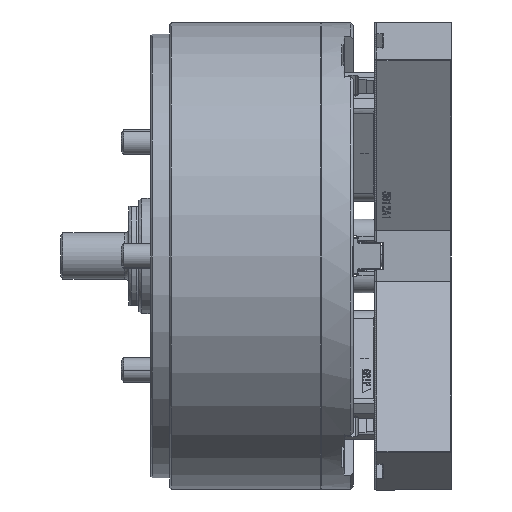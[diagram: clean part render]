
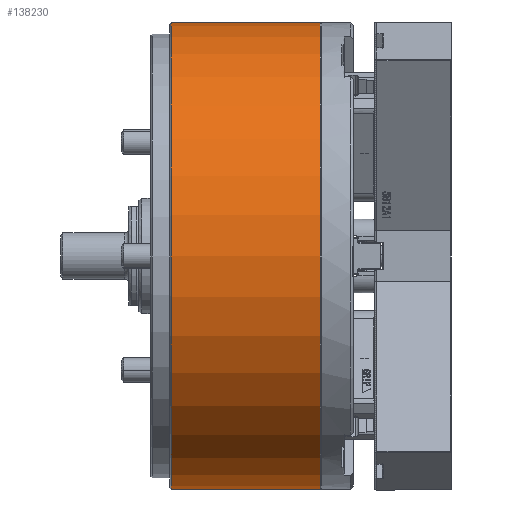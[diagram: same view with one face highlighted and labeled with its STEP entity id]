
A CAD part, front view. The second image highlights one B-rep face of the part: STEP entity #138230.
In plain terms, the highlighted cylindrical face has radius 152 mm (diameter 304 mm), a partial arc.
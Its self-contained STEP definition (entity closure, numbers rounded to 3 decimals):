
#1074 = VERTEX_POINT ( 'NONE', #6318 ) ;
#3977 = DIRECTION ( 'NONE',  ( -1., 0., 0. ) ) ;
#6318 = CARTESIAN_POINT ( 'NONE',  ( -104.7, 0., 152. ) ) ;
#6844 = AXIS2_PLACEMENT_3D ( 'NONE', #83480, #3977, #96843 ) ;
#12107 = ORIENTED_EDGE ( 'NONE', *, *, #101148, .T. ) ;
#15171 = LINE ( 'NONE', #60886, #77536 ) ;
#35622 = DIRECTION ( 'NONE',  ( -1., 0., 0. ) ) ;
#43372 = CARTESIAN_POINT ( 'NONE',  ( -128.459, 0., 0. ) ) ;
#46189 = CARTESIAN_POINT ( 'NONE',  ( -7.4, 0., -152. ) ) ;
#48164 = DIRECTION ( 'NONE',  ( -1., 0., 0. ) ) ;
#48255 = CYLINDRICAL_SURFACE ( 'NONE', #62911, 152. ) ;
#60886 = CARTESIAN_POINT ( 'NONE',  ( -128.459, 0., -152. ) ) ;
#60935 = VERTEX_POINT ( 'NONE', #135911 ) ;
#62911 = AXIS2_PLACEMENT_3D ( 'NONE', #43372, #83400, #96192 ) ;
#72539 = EDGE_LOOP ( 'NONE', ( #101060, #100143, #12107, #143607 ) ) ;
#77536 = VECTOR ( 'NONE', #140363, 1000. ) ;
#83400 = DIRECTION ( 'NONE',  ( -1., 0., 0. ) ) ;
#83442 = AXIS2_PLACEMENT_3D ( 'NONE', #127663, #48164, #141016 ) ;
#83480 = CARTESIAN_POINT ( 'NONE',  ( -104.7, 0., 0. ) ) ;
#85690 = CIRCLE ( 'NONE', #6844, 152. ) ;
#87731 = FACE_OUTER_BOUND ( 'NONE', #72539, .T. ) ;
#96192 = DIRECTION ( 'NONE',  ( 0., 0., 1. ) ) ;
#96843 = DIRECTION ( 'NONE',  ( 0., 0., 1. ) ) ;
#100143 = ORIENTED_EDGE ( 'NONE', *, *, #143352, .T. ) ;
#101060 = ORIENTED_EDGE ( 'NONE', *, *, #123365, .F. ) ;
#101148 = EDGE_CURVE ( 'NONE', #60935, #1074, #103519, .T. ) ;
#103519 = LINE ( 'NONE', #114540, #169889 ) ;
#104567 = CARTESIAN_POINT ( 'NONE',  ( -104.7, 0., -152. ) ) ;
#114540 = CARTESIAN_POINT ( 'NONE',  ( -128.459, 0., 152. ) ) ;
#116623 = VERTEX_POINT ( 'NONE', #104567 ) ;
#121529 = CIRCLE ( 'NONE', #83442, 152. ) ;
#123365 = EDGE_CURVE ( 'NONE', #137335, #116623, #15171, .T. ) ;
#127663 = CARTESIAN_POINT ( 'NONE',  ( -7.4, 0., 0. ) ) ;
#135911 = CARTESIAN_POINT ( 'NONE',  ( -7.4, 0., 152. ) ) ;
#137335 = VERTEX_POINT ( 'NONE', #46189 ) ;
#138230 = ADVANCED_FACE ( 'NONE', ( #87731 ), #48255, .T. ) ;
#140363 = DIRECTION ( 'NONE',  ( -1., 0., 0. ) ) ;
#141016 = DIRECTION ( 'NONE',  ( 0., 0., 1. ) ) ;
#143352 = EDGE_CURVE ( 'NONE', #137335, #60935, #121529, .T. ) ;
#143607 = ORIENTED_EDGE ( 'NONE', *, *, #155555, .F. ) ;
#155555 = EDGE_CURVE ( 'NONE', #116623, #1074, #85690, .T. ) ;
#169889 = VECTOR ( 'NONE', #35622, 1000. ) ;
